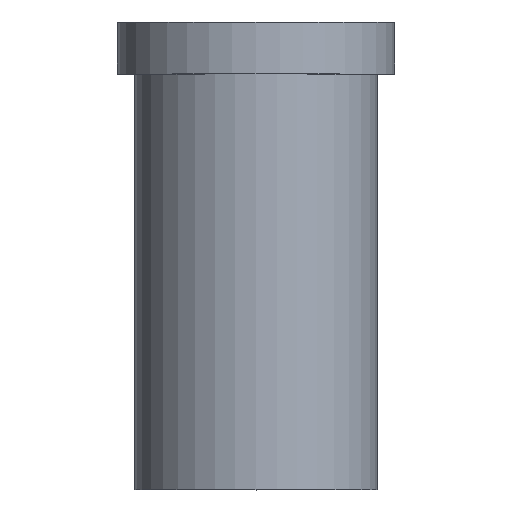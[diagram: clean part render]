
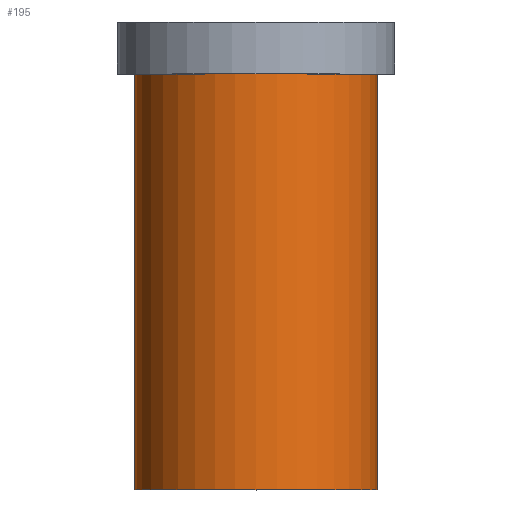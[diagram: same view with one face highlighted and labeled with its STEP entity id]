
A CAD part, top view. The second image highlights one B-rep face of the part: STEP entity #195.
In plain terms, the highlighted cylindrical face has radius 7 mm (diameter 14 mm), a full revolution.
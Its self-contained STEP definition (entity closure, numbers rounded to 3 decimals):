
#32=ORIENTED_EDGE('',*,*,#50,.T.);
#33=ORIENTED_EDGE('',*,*,#49,.F.);
#49=EDGE_CURVE('',#59,#59,#69,.T.);
#50=EDGE_CURVE('',#60,#60,#70,.T.);
#59=VERTEX_POINT('',#280);
#60=VERTEX_POINT('',#283);
#69=CIRCLE('',#213,7.);
#70=CIRCLE('',#215,7.);
#82=EDGE_LOOP('',(#32));
#83=EDGE_LOOP('',(#33));
#102=FACE_BOUND('',#82,.T.);
#103=FACE_BOUND('',#83,.T.);
#117=CYLINDRICAL_SURFACE('',#214,7.);
#195=ADVANCED_FACE('',(#102,#103),#117,.T.);
#213=AXIS2_PLACEMENT_3D('',#279,#241,#242);
#214=AXIS2_PLACEMENT_3D('',#281,#243,#244);
#215=AXIS2_PLACEMENT_3D('',#282,#245,#246);
#241=DIRECTION('',(0.,-1.,0.));
#242=DIRECTION('',(0.,0.,-1.));
#243=DIRECTION('',(0.,-1.,0.));
#244=DIRECTION('',(0.,0.,-1.));
#245=DIRECTION('',(0.,-1.,0.));
#246=DIRECTION('',(0.,0.,-1.));
#279=CARTESIAN_POINT('',(0.,0.,0.));
#280=CARTESIAN_POINT('',(0.,0.,-7.));
#281=CARTESIAN_POINT('',(0.,0.,0.));
#282=CARTESIAN_POINT('',(0.,24.,0.));
#283=CARTESIAN_POINT('',(0.,24.,-7.));
